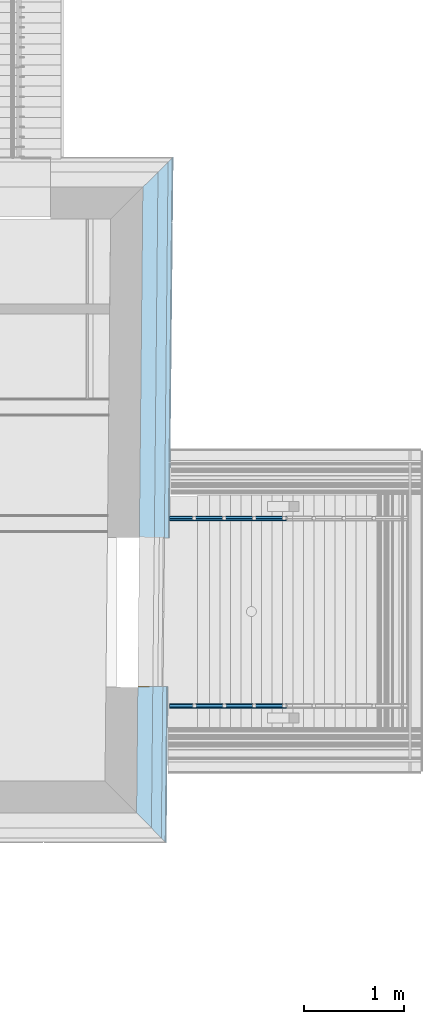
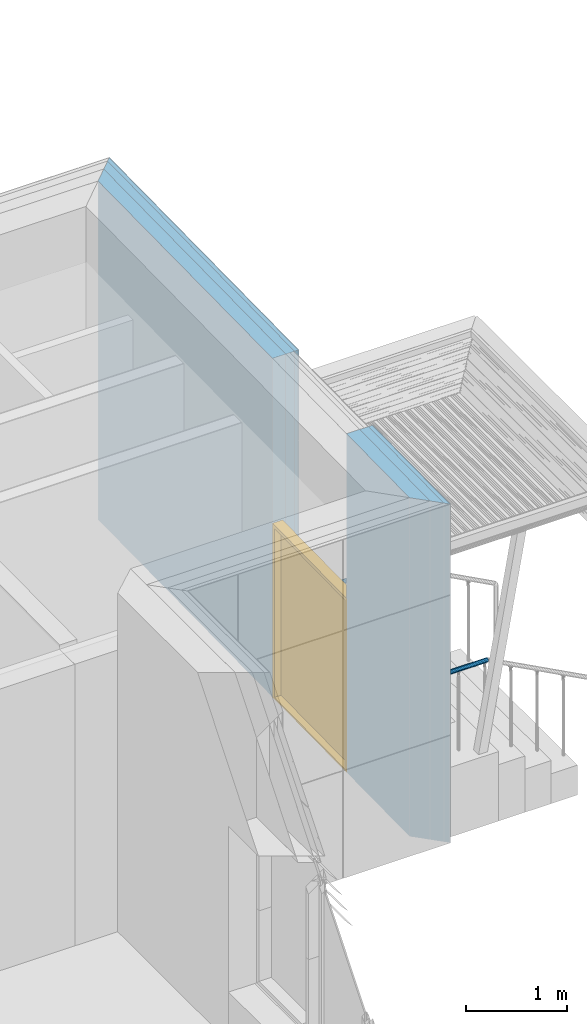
# One storey, part 141 of 418: 2 building element parts, 1 door, 8 openings, 5 elements without a shape of their own, plus 4 elements that do not belong to this part.
"""IFC2X3 building model written with IfcOpenShell, lengths in millimetres."""

from ifc_helpers import new_model, entity, si_unit, converted_unit, derived_unit, money_unit, direction, frame, origin_with_axes, origin_2d_with_axis, place, context, subcontext, project, spatial, polyline, rectangle, outline, extrude, faceted_brep, material, type_object, element, fill, aggregate, save


model = new_model("IFC2X3")

# Units and contexts
model_context = context("Model", 3, precision=0.01, world=origin_with_axes(), true_north=direction((0.0, 1.0)))
body_context = subcontext(model_context, "Body", "Model", "MODEL_VIEW")
ifc_project = project(units=[si_unit("LENGTHUNIT", "METRE", prefix="MILLI"), si_unit("AREAUNIT", "SQUARE_METRE"), si_unit("VOLUMEUNIT", "CUBIC_METRE"), converted_unit("PLANEANGLEUNIT", "DEGREE", entity("IfcPlaneAngleMeasure", 0.0174532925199), si_unit("PLANEANGLEUNIT", "RADIAN"), dimensions=[0, 0, 0, 0, 0, 0, 0]), si_unit("SOLIDANGLEUNIT", "STERADIAN"), money_unit("EUR"), converted_unit("TIMEUNIT", "Year", entity("IfcTimeMeasure", 31556926.0), si_unit("TIMEUNIT", "SECOND"), dimensions=[0, 0, 1, 0, 0, 0, 0]), si_unit("MASSUNIT", "GRAM", prefix="KILO"), si_unit("THERMODYNAMICTEMPERATUREUNIT", "DEGREE_CELSIUS"), si_unit("LUMINOUSINTENSITYUNIT", "LUMEN"), si_unit("ENERGYUNIT", "JOULE", prefix="MEGA"), derived_unit("THERMALCONDUCTANCEUNIT", [(si_unit("POWERUNIT", "WATT"), 1), (si_unit("LENGTHUNIT", "METRE"), -1), (si_unit("THERMODYNAMICTEMPERATUREUNIT", "KELVIN"), -1)]), derived_unit("SPECIFICHEATCAPACITYUNIT", [(si_unit("ENERGYUNIT", "JOULE"), 1), (si_unit("MASSUNIT", "GRAM", prefix="KILO"), -1), (si_unit("THERMODYNAMICTEMPERATUREUNIT", "KELVIN"), -1)]), derived_unit("MASSDENSITYUNIT", [(si_unit("MASSUNIT", "GRAM", prefix="KILO"), 1), (si_unit("VOLUMEUNIT", "CUBIC_METRE"), -1)])], contexts=[model_context])

# Site, building, storey
site_placement = place(None, origin_with_axes())
site = spatial("IfcSite", under=ifc_project, at=site_placement, Name="Paldiski mnt 245/1, Tallinn, Harjumaa", CompositionType="COMPLEX")
building_placement = place(site_placement, origin_with_axes())
building = spatial("IfcBuilding", under=site, at=building_placement, Name="RKAS Hoone üldnimetus (kasutust iseloomustav) -> IFC Project Manager -> SOLIBRI", CompositionType="ELEMENT")
storey_placement = place(building_placement, origin_with_axes())
storey = spatial("IfcBuildingStorey", under=building, at=storey_placement, Name="Esimene korrus", CompositionType="ELEMENT", Elevation=0.0)

# Door
door_style = type_object("IfcDoorStyle", Name="Double Door Asymmetric 23", ConstructionType="NOTDEFINED", OperationType="DOUBLE_DOOR_SINGLE_SWING", ParameterTakesPrecedence=False, Sizeable=False)
wall_placement = place(storey_placement, frame((-47068.6681644, 29819.8287244, 0.0), z_axis=(0.0, 0.0, 1.0), x_axis=(0.0100813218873, 0.999949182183, 0.0)))
opening_7_placement = place(wall_placement, frame((2010.54035859, 0.0, 0.0), z_axis=(0.0, 0.0, 1.0), x_axis=(1.0, 0.0, 0.0)))
door_placement = place(opening_7_placement, frame((750.0, 0.0, 0.0), z_axis=(0.0, 0.0, 1.0), x_axis=(-1.0, 0.0, 0.0)))
door = element("IfcDoor", 1, at=door_placement, inside=storey, type_object=door_style, Name="VU-04p", ObjectType="DOOR", OverallHeight=2100.0, OverallWidth=1500.0, context=body_context, shape_type="Brep", body=[
    faceted_brep([(40.0, 0.0, 0.0), (40.0, 0.0, 20.0), (40.0, 75.0, 20.0), (40.0, 75.0, 0.0), (1460.0, 0.0, 0.0), (1460.0, 0.0, 20.0), (1460.0, 75.0, 20.0), (1472.0, 75.0, 20.0), (28.0, 75.0, 20.0), (28.0, 75.0, 0.0), (1472.0, 75.0, 0.0), (1460.0, 75.0, 0.0)], [[[0, 1, 2, 3]], [[4, 5, 1, 0]], [[1, 5, 6, 7, 8, 2]], [[3, 2, 8, 9]], [[0, 3, 9, 10, 11, 4]], [[11, 6, 5, 4]], [[10, 7, 6, 11]], [[9, 8, 7, 10]]]),
    faceted_brep([(1460.0, 75.0, 0.0), (1460.0, 0.0, 0.0), (1460.0, 0.0, 2060.0), (1460.0, 75.0, 2060.0), (1472.0, 75.0, 0.0), (1472.0, 115.0, 0.0), (1500.0, 115.0, 0.0), (1500.0, 0.0, 0.0), (1500.0, 0.0, 2060.0), (1472.0, 75.0, 2060.0), (1500.0, 115.0, 2060.0), (1472.0, 115.0, 2060.0)], [[[0, 1, 2, 3]], [[4, 5, 6, 7, 1, 0]], [[1, 7, 8, 2]], [[9, 3, 2, 8, 10, 11]], [[9, 4, 0, 3]], [[11, 5, 4, 9]], [[11, 10, 6, 5]], [[6, 10, 8, 7]]]),
    faceted_brep([(28.0, 75.0, 2060.0), (28.0, 115.0, 2060.0), (0.0, 115.0, 2060.0), (0.0, 0.0, 2060.0), (40.0, 0.0, 2060.0), (40.0, 75.0, 2060.0), (28.0, 75.0, 0.0), (28.0, 115.0, 0.0), (0.0, 115.0, 0.0), (0.0, 0.0, 0.0), (40.0, 0.0, 0.0), (40.0, 75.0, 0.0)], [[[0, 1, 2, 3, 4, 5]], [[0, 6, 7, 1]], [[7, 8, 2, 1]], [[2, 8, 9, 3]], [[3, 9, 10, 4]], [[5, 4, 10, 11]], [[5, 11, 6, 0]], [[6, 11, 10, 9, 8, 7]]]),
    faceted_brep([(1472.0, 115.0, 2072.0), (28.0, 115.0, 2072.0), (28.0, 115.0, 2060.0), (0.0, 115.0, 2060.0), (0.0, 115.0, 2100.0), (1500.0, 115.0, 2100.0), (1500.0, 115.0, 2060.0), (1472.0, 115.0, 2060.0), (1472.0, 75.0, 2072.0), (28.0, 75.0, 2072.0), (28.0, 75.0, 2060.0), (40.0, 75.0, 2060.0), (40.0, 0.0, 2060.0), (0.0, 0.0, 2060.0), (0.0, 0.0, 2100.0), (1500.0, 0.0, 2100.0), (1500.0, 0.0, 2060.0), (1472.0, 75.0, 2060.0), (1460.0, 0.0, 2060.0), (1460.0, 75.0, 2060.0)], [[[0, 1, 2, 3, 4, 5, 6, 7]], [[0, 8, 9, 1]], [[1, 9, 10, 2]], [[10, 11, 12, 13, 3, 2]], [[4, 3, 13, 14]], [[5, 4, 14, 15]], [[6, 5, 15, 16]], [[17, 7, 6, 16, 18, 19]], [[7, 17, 8, 0]], [[10, 9, 8, 17, 19, 11]], [[19, 18, 12, 11]], [[12, 18, 16, 15, 14, 13]]]),
    faceted_brep([(28.0, 115.0, 0.0), (1000.0, 115.0, 0.0), (1000.0, 75.0, 0.0), (28.0, 75.0, 0.0), (28.0, 115.0, 2072.0), (1000.0, 115.0, 2072.0), (1000.0, 75.0, 2072.0), (28.0, 75.0, 2072.0)], [[[0, 1, 2, 3]], [[0, 4, 5, 1]], [[1, 5, 6, 2]], [[3, 2, 6, 7]], [[4, 0, 3, 7]], [[5, 4, 7, 6]]]),
    faceted_brep([(1472.0, 115.0, 0.0), (1472.0, 75.0, 0.0), (1000.0, 75.0, 0.0), (1000.0, 115.0, 0.0), (1472.0, 115.0, 2072.0), (1472.0, 75.0, 2072.0), (1000.0, 75.0, 2072.0), (1000.0, 115.0, 2072.0)], [[[0, 1, 2, 3]], [[4, 5, 1, 0]], [[1, 5, 6, 2]], [[3, 2, 6, 7]], [[0, 3, 7, 4]], [[7, 6, 5, 4]]]),
])

# Wall, openings
wall_type = type_object("IfcWallType", Name="VS-03C_uued_kihid 300", PredefinedType="NOTDEFINED")
wall = element("IfcWall", 2, at=wall_placement, inside=storey, type_object=wall_type, Name="VS-03")
opening_1_placement = place(wall_placement, frame((5916.12451231, 0.0, 0.0), z_axis=(0.0, 0.0, 1.0), x_axis=(1.0, 0.0, 0.0)))
element("IfcOpeningElement", 3, at=opening_1_placement, cuts=wall, Name="Cembrit fassaadiplaadi vuuk", context=body_context, shape_type="SweptSolid", body=[
    extrude(outline(polyline([(-3.99999999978, 0.0), (4.00000000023, 0.0), (4.00000000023, 4090.0), (-3.99999999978, 4090.0), (-3.99999999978, 0.0)])), frame((2.13162820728e-10, -292.0, 0.0), z_axis=(0.0, 1.0, 0.0), x_axis=(-1.0, 0.0, 0.0)), (0.0, 0.0, -1.0), 308.0),
])
opening_2_placement = place(wall_placement, frame((4716.06352783, 0.0, 0.0), z_axis=(0.0, 0.0, 1.0), x_axis=(1.0, 0.0, 0.0)))
element("IfcOpeningElement", 4, at=opening_2_placement, cuts=wall, Name="Cembrit fassaadiplaadi vuuk", context=body_context, shape_type="SweptSolid", body=[
    extrude(outline(polyline([(-3.99999999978, 0.0), (4.00000000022, 0.0), (4.00000000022, 4090.0), (-3.99999999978, 4090.0), (-3.99999999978, 0.0)])), frame((2.13162820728e-10, -292.0, 0.0), z_axis=(0.0, 1.0, 0.0), x_axis=(-1.0, 0.0, 0.0)), (0.0, 0.0, -1.0), 308.0),
])
opening_3_placement = place(wall_placement, frame((3516.00254335, 0.0, 0.0), z_axis=(0.0, 0.0, 1.0), x_axis=(1.0, 0.0, 0.0)))
element("IfcOpeningElement", 5, at=opening_3_placement, cuts=wall, Name="Cembrit fassaadiplaadi vuuk", context=body_context, shape_type="SweptSolid", body=[
    extrude(outline(polyline([(-3.99999999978, 0.0), (4.00000000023, 0.0), (4.00000000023, 4090.0), (-3.99999999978, 4090.0), (-3.99999999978, 0.0)])), frame((2.13162820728e-10, -292.0, 0.0), z_axis=(0.0, 1.0, 0.0), x_axis=(-1.0, 0.0, 0.0)), (0.0, 0.0, -1.0), 308.0),
])
opening_4_placement = place(wall_placement, frame((513.517764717, 0.0, 0.0), z_axis=(0.0, 0.0, 1.0), x_axis=(1.0, 0.0, 0.0)))
element("IfcOpeningElement", 6, at=opening_4_placement, cuts=wall, Name="Cembrit fassaadiplaadi vuuk", context=body_context, shape_type="SweptSolid", body=[
    extrude(outline(polyline([(-3.99999999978, 0.0), (4.00000000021, 0.0), (4.00000000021, 4090.0), (-3.99999999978, 4090.0), (-3.99999999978, 0.0)])), frame((2.13162820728e-10, -292.0, 0.0), z_axis=(0.0, 1.0, 0.0), x_axis=(-1.0, 0.0, 0.0)), (0.0, 0.0, -1.0), 308.0),
])
opening_5_placement = place(wall_placement, frame((3139.79696569, 0.0, 1298.0), z_axis=(0.0, 0.0, 1.0), x_axis=(1.0, 0.0, 0.0)))
element("IfcOpeningElement", 7, at=opening_5_placement, cuts=wall, Name="Cembrit fassaadiplaadi vuuk", context=body_context, shape_type="SweptSolid", body=[
    extrude(outline(polyline([(-3433.5614746, 0.0), (3433.5614746, 0.0), (3433.5614746, 8.0), (-3433.5614746, 8.0), (-3433.5614746, 0.0)])), frame((0.0, -292.0, 0.0), z_axis=(0.0, 1.0, 0.0), x_axis=(-1.0, 0.0, 0.0)), (0.0, 0.0, -1.0), 308.0),
])
opening_6_placement = place(wall_placement, frame((3139.79696569, 0.0, 2990.0), z_axis=(0.0, 0.0, 1.0), x_axis=(1.0, 0.0, 0.0)))
element("IfcOpeningElement", 8, at=opening_6_placement, cuts=wall, Name="Cembrit fassaadiplaadi vuuk", context=body_context, shape_type="SweptSolid", body=[
    extrude(outline(polyline([(-3433.5614746, 0.0), (3433.5614746, 0.0), (3433.5614746, 8.0), (-3433.5614746, 8.0), (-3433.5614746, 0.0)])), frame((0.0, -292.0, 0.0), z_axis=(0.0, 1.0, 0.0), x_axis=(-1.0, 0.0, 0.0)), (0.0, 0.0, -1.0), 308.0),
])
opening_7 = element("IfcOpeningElement", 9, at=opening_7_placement, cuts=wall, Name="VU-04p", context=body_context, shape_type="SweptSolid", body=[
    extrude(rectangle(XDim=1500.0, YDim=2100.0, at=origin_2d_with_axis()), frame((0.0, -300.0, 1050.0), z_axis=(0.0, -1.0, 0.0), x_axis=(1.0, 0.0, 0.0)), (0.0, 0.0, -1.0), 900.0),
])

fill(opening_7, door)

# Opening
opening_8_placement = place(wall_placement, frame((-29343.7989512, -47366.8995295, 0.0), z_axis=(0.0, 0.0, 1.0), x_axis=(0.0100813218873, -0.999949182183, 0.0)))
element("IfcOpeningElement", 10, at=opening_8_placement, cuts=wall, Name="AVA", ObjectType="OPENING", context=body_context, shape_type="SweptSolid", body=[
    extrude(rectangle(XDim=1490.0, YDim=4090.0, at=origin_2d_with_axis()), frame((-47048.3797539, 31832.2016801, 2045.0), z_axis=(0.999949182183, -0.0100813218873, 0.0), x_axis=(0.0100813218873, 0.999949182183, 0.0)), (0.0, 0.0, 1.0), 713.654151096),
])

# Building element part
ifc_material_1 = material(Name="Cembrit_C040")
building_element_part_1_placement = place(wall_placement, origin_with_axes())
building_element_part_1 = element("IfcBuildingElementPart", 11, at=building_element_part_1_placement, material=ifc_material_1, Name="Cembrit_C040", context=body_context, shape_type="SweptSolid", body=[
    extrude(outline(polyline([(-296.990695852, -300.0), (6573.35844029, -300.0), (6565.27737905, -292.0), (-289.070943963, -292.0), (-296.990695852, -300.0)])), origin_with_axes(), (0.0, 0.0, 1.0), 4090.0),
])

ifc_material_2 = material(Name="VKR-06_Õhkvahe")
building_element_part_2_placement = place(wall_placement, origin_with_axes())
building_element_part_2 = element("IfcBuildingElementPart", 12, at=building_element_part_2_placement, material=ifc_material_2, Name="VKR-06_Õhkvahe", context=body_context, shape_type="SweptSolid", body=[
    extrude(outline(polyline([(-289.070943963, -292.0), (6565.27737905, -292.0), (6522.85180756, -250.0), (-247.492246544, -250.0), (-289.070943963, -292.0)])), origin_with_axes(), (0.0, 0.0, 1.0), 4090.0),
])

ifc_material_3 = material(Name="Kingspan Kooltherm")
building_element_part_3_placement = place(wall_placement, origin_with_axes())
building_element_part_3 = element("IfcBuildingElementPart", 13, at=building_element_part_3_placement, material=ifc_material_3, Name="Kingspan Kooltherm", context=body_context, shape_type="SweptSolid", body=[
    extrude(outline(polyline([(-247.492246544, -250.0), (6522.85180756, -250.0), (6421.8385421, -150.0), (-148.495347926, -150.0), (-247.492246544, -250.0)])), origin_with_axes(), (0.0, 0.0, 1.0), 4090.0),
])

building_element_part_4_placement = place(wall_placement, origin_with_axes())
building_element_part_4 = element("IfcBuildingElementPart", 14, at=building_element_part_4_placement, material=ifc_material_3, Name="Kingspan Kooltherm", context=body_context, shape_type="SweptSolid", body=[
    extrude(outline(polyline([(-148.495347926, -150.0), (6421.8385421, -150.0), (6270.3186439, 0.0), (0.0, 0.0), (-148.495347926, -150.0)])), origin_with_axes(), (0.0, 0.0, 1.0), 4090.0),
])

aggregate(wall, [building_element_part_1, building_element_part_2, building_element_part_3, building_element_part_4])

# Proxies, building element part
building_element_proxy_type_1 = type_object("IfcBuildingElementProxyType", Name="Railing Type", PredefinedType="NOTDEFINED")
proxy_1_placement = place(storey_placement, frame((-46768.8433803, 32771.6822003, -641.218687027), z_axis=(0.0, 0.0, 1.0), x_axis=(1.0, 0.0, 0.0)))
proxy_1 = element("IfcBuildingElementProxy", 15, at=proxy_1_placement, inside=storey, type_object=building_element_proxy_type_1, Name="Trepipiire")
building_element_proxy_type_2 = type_object("IfcBuildingElementProxyType", Name="IfcBuildingElementProxy", PredefinedType="NOTDEFINED")
proxy_2_placement = place(proxy_1_placement, frame((620.842922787, 0.0, 1565.31698759), z_axis=(0.0, 0.0, 1.0), x_axis=(1.0, 0.0, 0.0)))
proxy_2 = element("IfcBuildingElementProxy", 16, at=proxy_2_placement, type_object=building_element_proxy_type_2, Name="ÜL PIIRE - 001")
aggregate(proxy_1, [proxy_2])
ifc_material_4 = material(Name="RAL7016")
building_element_part_5_placement = place(proxy_2_placement, origin_with_axes())
building_element_part_5 = element("IfcBuildingElementPart", 17, at=building_element_part_5_placement, material=ifc_material_4, Name="RAL7016", context=body_context, shape_type="Brep", body=[
    faceted_brep([(-590.589908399, 25.0, 30.9016994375), (-590.589908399, 24.6201938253, 35.2429038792), (585.423459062, 24.6201938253, 35.2429038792), (584.337790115, 25.0, 30.9016994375), (-590.589908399, 24.6201938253, 26.5604949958), (-590.589908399, 23.4923155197, 22.3511958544), (-590.589908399, 21.6506350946, 18.4016994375), (-590.589908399, 19.151111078, 14.8320091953), (-590.589908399, 16.0696902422, 11.7505883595), (-590.589908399, 12.5, 9.25106434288), (-590.589908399, 8.55050358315, 7.40938391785), (-590.589908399, 4.34120444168, 6.28150561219), (-590.589908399, 0.0, 5.90169943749), (-590.589908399, -4.34120444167, 6.28150561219), (-590.589908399, -8.55050358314, 7.40938391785), (-590.589908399, -12.5, 9.25106434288), (-590.589908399, -16.0696902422, 11.7505883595), (-590.589908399, -19.151111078, 14.8320091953), (-590.589908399, -21.6506350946, 18.4016994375), (-590.589908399, -23.4923155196, 22.3511958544), (-590.589908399, -24.6201938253, 26.5604949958), (-590.589908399, -25.0, 30.9016994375), (-590.589908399, -24.6201938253, 35.2429038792), (-590.589908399, -23.4923155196, 39.4522030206), (-590.589908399, -21.6506350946, 43.4016994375), (-590.589908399, -19.151111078, 46.9713896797), (-590.589908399, -16.0696902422, 50.0528105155), (-590.589908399, -12.5, 52.5523345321), (-590.589908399, -8.55050358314, 54.3940149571), (-590.589908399, -4.34120444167, 55.5218932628), (-590.589908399, 0.0, 55.9016994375), (-590.589908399, 4.34120444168, 55.5218932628), (-590.589908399, 8.55050358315, 54.3940149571), (-590.589908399, 12.5, 52.5523345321), (-590.589908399, 16.0696902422, 50.0528105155), (-590.589908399, 19.151111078, 46.9713896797), (-590.589908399, 21.6506350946, 43.4016994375), (-590.589908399, 23.4923155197, 39.4522030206), (-590.589908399, 20.5, 30.9016994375), (-590.589908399, 20.1885589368, 34.4614870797), (-590.589908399, 19.2636987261, 37.9131123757), (-590.589908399, 17.7535207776, 41.1516994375), (-590.589908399, 15.7039110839, 44.0788454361), (-590.589908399, 13.1771459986, 46.6056105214), (-590.589908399, 10.25, 48.6552202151), (-590.589908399, 7.01141293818, 50.1653981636), (-590.589908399, 3.55978764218, 51.0902583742), (-590.589908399, 0.0, 51.4016994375), (-590.589908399, -3.55978764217, 51.0902583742), (-590.589908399, -7.01141293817, 50.1653981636), (-590.589908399, -10.25, 48.6552202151), (-590.589908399, -13.1771459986, 46.6056105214), (-590.589908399, -15.7039110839, 44.0788454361), (-590.589908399, -17.7535207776, 41.1516994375), (-590.589908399, -19.2636987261, 37.9131123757), (-590.589908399, -20.1885589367, 34.4614870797), (-590.589908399, -20.5, 30.9016994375), (-590.589908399, -20.1885589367, 27.3419117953), (-590.589908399, -19.2636987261, 23.8902864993), (-590.589908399, -17.7535207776, 20.6516994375), (-590.589908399, -15.7039110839, 17.7245534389), (-590.589908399, -13.1771459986, 15.1977883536), (-590.589908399, -10.25, 13.1481786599), (-590.589908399, -7.01141293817, 11.6380007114), (-590.589908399, -3.55978764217, 10.7131405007), (-590.589908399, 0.0, 10.4016994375), (-590.589908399, 3.55978764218, 10.7131405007), (-590.589908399, 7.01141293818, 11.6380007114), (-590.589908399, 10.25, 13.1481786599), (-590.589908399, 13.1771459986, 15.1977883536), (-590.589908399, 15.7039110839, 17.7245534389), (-590.589908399, 17.7535207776, 20.6516994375), (-590.589908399, 19.2636987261, 23.8902864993), (-590.589908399, 20.1885589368, 27.3419117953), (586.476140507, 23.4923155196, 39.4522030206), (587.463849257, 21.6506350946, 43.4016994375), (588.356574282, 19.151111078, 46.9713896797), (589.127190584, 16.0696902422, 50.0528105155), (589.752283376, 12.5, 52.5523345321), (590.212859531, 8.55050358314, 54.3940149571), (590.494924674, 4.34120444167, 55.5218932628), (590.589908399, 0.0, 55.9016994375), (590.494924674, -4.34120444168, 55.5218932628), (590.212859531, -8.55050358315, 54.3940149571), (589.752283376, -12.5, 52.5523345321), (589.127190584, -16.0696902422, 50.0528105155), (588.356574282, -19.151111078, 46.9713896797), (587.463849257, -21.6506350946, 43.4016994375), (586.476140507, -23.4923155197, 39.4522030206), (585.423459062, -24.6201938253, 35.2429038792), (584.337790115, -25.0, 30.9016994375), (583.252121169, -24.6201938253, 26.5604949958), (582.199439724, -23.4923155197, 22.3511958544), (581.211730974, -21.6506350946, 18.4016994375), (580.319005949, -19.151111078, 14.8320091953), (579.548389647, -16.0696902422, 11.7505883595), (578.923296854, -12.5, 9.25106434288), (578.4627207, -8.55050358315, 7.40938391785), (578.180655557, -4.34120444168, 6.28150561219), (578.085671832, 0.0, 5.90169943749), (578.180655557, 4.34120444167, 6.28150561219), (578.4627207, 8.55050358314, 7.40938391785), (578.923296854, 12.5, 9.25106434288), (579.548389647, 16.0696902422, 11.7505883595), (580.319005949, 19.151111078, 14.8320091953), (581.211730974, 21.6506350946, 18.4016994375), (582.199439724, 23.4923155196, 22.3511958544), (583.252121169, 24.6201938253, 26.5604949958), (584.337790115, 20.5, 30.9016994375), (583.447541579, 20.1885589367, 27.3419117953), (582.584342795, 19.2636987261, 23.8902864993), (581.774421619, 17.7535207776, 20.6516994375), (581.042387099, 15.7039110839, 17.7245534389), (580.410481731, 13.1771459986, 15.1977883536), (579.897905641, 10.25, 13.1481786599), (579.520233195, 7.01141293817, 11.6380007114), (579.288939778, 3.55978764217, 10.7131405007), (579.211053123, 0.0, 10.4016994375), (579.288939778, -3.55978764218, 10.7131405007), (579.520233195, -7.01141293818, 11.6380007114), (579.897905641, -10.25, 13.1481786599), (580.410481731, -13.1771459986, 15.1977883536), (581.042387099, -15.7039110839, 17.7245534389), (581.774421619, -17.7535207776, 20.6516994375), (582.584342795, -19.2636987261, 23.8902864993), (583.447541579, -20.1885589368, 27.3419117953), (584.337790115, -20.5, 30.9016994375), (585.228038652, -20.1885589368, 34.4614870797), (586.091237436, -19.2636987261, 37.9131123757), (586.901158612, -17.7535207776, 41.1516994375), (587.633193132, -15.7039110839, 44.0788454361), (588.2650985, -13.1771459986, 46.6056105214), (588.77767459, -10.25, 48.6552202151), (589.155347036, -7.01141293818, 50.1653981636), (589.386640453, -3.55978764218, 51.0902583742), (589.464527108, 0.0, 51.4016994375), (589.386640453, 3.55978764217, 51.0902583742), (589.155347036, 7.01141293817, 50.1653981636), (588.77767459, 10.25, 48.6552202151), (588.2650985, 13.1771459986, 46.6056105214), (587.633193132, 15.7039110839, 44.0788454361), (586.901158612, 17.7535207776, 41.1516994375), (586.091237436, 19.2636987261, 37.9131123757), (585.228038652, 20.1885589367, 34.4614870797)], [[[0, 1, 2, 3]], [[0, 4, 5, 6, 7, 8, 9, 10, 11, 12, 13, 14, 15, 16, 17, 18, 19, 20, 21, 22, 23, 24, 25, 26, 27, 28, 29, 30, 31, 32, 33, 34, 35, 36, 37, 1], [38, 39, 40, 41, 42, 43, 44, 45, 46, 47, 48, 49, 50, 51, 52, 53, 54, 55, 56, 57, 58, 59, 60, 61, 62, 63, 64, 65, 66, 67, 68, 69, 70, 71, 72, 73]], [[1, 37, 74, 2]], [[3, 2, 74, 75, 76, 77, 78, 79, 80, 81, 82, 83, 84, 85, 86, 87, 88, 89, 90, 91, 92, 93, 94, 95, 96, 97, 98, 99, 100, 101, 102, 103, 104, 105, 106, 107], [108, 109, 110, 111, 112, 113, 114, 115, 116, 117, 118, 119, 120, 121, 122, 123, 124, 125, 126, 127, 128, 129, 130, 131, 132, 133, 134, 135, 136, 137, 138, 139, 140, 141, 142, 143]], [[4, 0, 3, 107]], [[5, 4, 107, 106]], [[6, 5, 106, 105]], [[7, 6, 105, 104]], [[8, 7, 104, 103]], [[9, 8, 103, 102]], [[10, 9, 102, 101]], [[11, 10, 101, 100]], [[12, 11, 100, 99]], [[13, 12, 99, 98]], [[14, 13, 98, 97]], [[15, 14, 97, 96]], [[16, 15, 96, 95]], [[17, 16, 95, 94]], [[18, 17, 94, 93]], [[19, 18, 93, 92]], [[20, 19, 92, 91]], [[21, 20, 91, 90]], [[22, 21, 90, 89]], [[23, 22, 89, 88]], [[24, 23, 88, 87]], [[25, 24, 87, 86]], [[26, 25, 86, 85]], [[27, 26, 85, 84]], [[28, 27, 84, 83]], [[29, 28, 83, 82]], [[30, 29, 82, 81]], [[31, 30, 81, 80]], [[32, 31, 80, 79]], [[33, 32, 79, 78]], [[34, 33, 78, 77]], [[35, 34, 77, 76]], [[36, 35, 76, 75]], [[37, 36, 75, 74]], [[39, 38, 108, 143]], [[40, 39, 143, 142]], [[41, 40, 142, 141]], [[42, 41, 141, 140]], [[43, 42, 140, 139]], [[44, 43, 139, 138]], [[45, 44, 138, 137]], [[46, 45, 137, 136]], [[47, 46, 136, 135]], [[48, 47, 135, 134]], [[49, 48, 134, 133]], [[50, 49, 133, 132]], [[51, 50, 132, 131]], [[52, 51, 131, 130]], [[53, 52, 130, 129]], [[54, 53, 129, 128]], [[55, 54, 128, 127]], [[56, 55, 127, 126]], [[57, 56, 126, 125]], [[58, 57, 125, 124]], [[59, 58, 124, 123]], [[60, 59, 123, 122]], [[61, 60, 122, 121]], [[62, 61, 121, 120]], [[63, 62, 120, 119]], [[64, 63, 119, 118]], [[65, 64, 118, 117]], [[66, 65, 117, 116]], [[67, 66, 116, 115]], [[68, 67, 115, 114]], [[69, 68, 114, 113]], [[70, 69, 113, 112]], [[71, 70, 112, 111]], [[72, 71, 111, 110]], [[73, 72, 110, 109]], [[38, 73, 109, 108]]]),
])
aggregate(proxy_2, [building_element_part_5])

proxy_3_placement = place(storey_placement, frame((-46768.8433803, 30891.790867, -641.218687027), z_axis=(0.0, 0.0, 1.0), x_axis=(1.0, 0.0, 0.0)))
proxy_3 = element("IfcBuildingElementProxy", 18, at=proxy_3_placement, inside=storey, type_object=building_element_proxy_type_1, Name="Trepipiire")
proxy_4_placement = place(proxy_3_placement, frame((621.440722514, 0.0, 1565.31698759), z_axis=(0.0, 0.0, 1.0), x_axis=(1.0, 0.0, 0.0)))
proxy_4 = element("IfcBuildingElementProxy", 19, at=proxy_4_placement, type_object=building_element_proxy_type_2, Name="ÜL PIIRE - 001")
aggregate(proxy_3, [proxy_4])
building_element_part_6_placement = place(proxy_4_placement, origin_with_axes())
building_element_part_6 = element("IfcBuildingElementPart", 20, at=building_element_part_6_placement, material=ifc_material_4, Name="RAL7016", context=body_context, shape_type="Brep", body=[
    faceted_brep([(-589.992108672, 25.0, 30.9016994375), (-589.992108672, 24.6201938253, 35.2429038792), (584.825659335, 24.6201938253, 35.2429038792), (583.739990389, 25.0, 30.9016994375), (-589.992108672, 24.6201938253, 26.5604949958), (-589.992108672, 23.4923155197, 22.3511958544), (-589.992108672, 21.6506350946, 18.4016994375), (-589.992108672, 19.151111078, 14.8320091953), (-589.992108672, 16.0696902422, 11.7505883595), (-589.992108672, 12.5, 9.25106434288), (-589.992108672, 8.55050358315, 7.40938391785), (-589.992108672, 4.34120444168, 6.28150561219), (-589.992108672, 0.0, 5.90169943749), (-589.992108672, -4.34120444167, 6.28150561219), (-589.992108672, -8.55050358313, 7.40938391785), (-589.992108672, -12.5, 9.25106434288), (-589.992108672, -16.0696902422, 11.7505883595), (-589.992108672, -19.151111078, 14.8320091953), (-589.992108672, -21.6506350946, 18.4016994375), (-589.992108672, -23.4923155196, 22.3511958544), (-589.992108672, -24.6201938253, 26.5604949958), (-589.992108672, -25.0, 30.9016994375), (-589.992108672, -24.6201938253, 35.2429038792), (-589.992108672, -23.4923155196, 39.4522030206), (-589.992108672, -21.6506350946, 43.4016994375), (-589.992108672, -19.151111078, 46.9713896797), (-589.992108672, -16.0696902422, 50.0528105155), (-589.992108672, -12.5, 52.5523345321), (-589.992108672, -8.55050358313, 54.3940149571), (-589.992108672, -4.34120444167, 55.5218932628), (-589.992108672, 0.0, 55.9016994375), (-589.992108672, 4.34120444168, 55.5218932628), (-589.992108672, 8.55050358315, 54.3940149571), (-589.992108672, 12.5, 52.5523345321), (-589.992108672, 16.0696902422, 50.0528105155), (-589.992108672, 19.151111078, 46.9713896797), (-589.992108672, 21.6506350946, 43.4016994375), (-589.992108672, 23.4923155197, 39.4522030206), (-589.992108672, 20.5, 30.9016994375), (-589.992108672, 20.1885589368, 34.4614870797), (-589.992108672, 19.2636987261, 37.9131123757), (-589.992108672, 17.7535207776, 41.1516994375), (-589.992108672, 15.7039110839, 44.0788454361), (-589.992108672, 13.1771459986, 46.6056105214), (-589.992108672, 10.25, 48.6552202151), (-589.992108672, 7.01141293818, 50.1653981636), (-589.992108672, 3.55978764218, 51.0902583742), (-589.992108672, 0.0, 51.4016994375), (-589.992108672, -3.55978764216, 51.0902583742), (-589.992108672, -7.01141293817, 50.1653981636), (-589.992108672, -10.25, 48.6552202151), (-589.992108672, -13.1771459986, 46.6056105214), (-589.992108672, -15.7039110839, 44.0788454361), (-589.992108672, -17.7535207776, 41.1516994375), (-589.992108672, -19.2636987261, 37.9131123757), (-589.992108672, -20.1885589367, 34.4614870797), (-589.992108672, -20.5, 30.9016994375), (-589.992108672, -20.1885589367, 27.3419117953), (-589.992108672, -19.2636987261, 23.8902864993), (-589.992108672, -17.7535207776, 20.6516994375), (-589.992108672, -15.7039110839, 17.7245534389), (-589.992108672, -13.1771459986, 15.1977883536), (-589.992108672, -10.25, 13.1481786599), (-589.992108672, -7.01141293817, 11.6380007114), (-589.992108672, -3.55978764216, 10.7131405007), (-589.992108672, 0.0, 10.4016994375), (-589.992108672, 3.55978764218, 10.7131405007), (-589.992108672, 7.01141293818, 11.6380007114), (-589.992108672, 10.25, 13.1481786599), (-589.992108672, 13.1771459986, 15.1977883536), (-589.992108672, 15.7039110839, 17.7245534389), (-589.992108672, 17.7535207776, 20.6516994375), (-589.992108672, 19.2636987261, 23.8902864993), (-589.992108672, 20.1885589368, 27.3419117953), (585.87834078, 23.4923155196, 39.4522030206), (586.866049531, 21.6506350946, 43.4016994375), (587.758774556, 19.151111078, 46.9713896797), (588.529390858, 16.0696902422, 50.0528105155), (589.15448365, 12.5, 52.5523345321), (589.615059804, 8.55050358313, 54.3940149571), (589.897124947, 4.34120444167, 55.5218932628), (589.992108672, 0.0, 55.9016994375), (589.897124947, -4.34120444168, 55.5218932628), (589.615059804, -8.55050358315, 54.3940149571), (589.15448365, -12.5, 52.5523345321), (588.529390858, -16.0696902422, 50.0528105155), (587.758774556, -19.151111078, 46.9713896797), (586.866049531, -21.6506350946, 43.4016994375), (585.87834078, -23.4923155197, 39.4522030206), (584.825659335, -24.6201938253, 35.2429038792), (583.739990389, -25.0, 30.9016994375), (582.654321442, -24.6201938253, 26.5604949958), (581.601639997, -23.4923155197, 22.3511958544), (580.613931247, -21.6506350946, 18.4016994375), (579.721206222, -19.151111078, 14.8320091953), (578.95058992, -16.0696902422, 11.7505883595), (578.325497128, -12.5, 9.25106434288), (577.864920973, -8.55050358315, 7.40938391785), (577.58285583, -4.34120444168, 6.28150561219), (577.487872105, 0.0, 5.90169943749), (577.58285583, 4.34120444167, 6.28150561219), (577.864920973, 8.55050358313, 7.40938391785), (578.325497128, 12.5, 9.25106434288), (578.95058992, 16.0696902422, 11.7505883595), (579.721206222, 19.151111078, 14.8320091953), (580.613931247, 21.6506350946, 18.4016994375), (581.601639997, 23.4923155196, 22.3511958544), (582.654321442, 24.6201938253, 26.5604949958), (583.739990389, 20.5, 30.9016994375), (582.849741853, 20.1885589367, 27.3419117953), (581.986543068, 19.2636987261, 23.8902864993), (581.176621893, 17.7535207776, 20.6516994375), (580.444587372, 15.7039110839, 17.7245534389), (579.812682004, 13.1771459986, 15.1977883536), (579.300105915, 10.25, 13.1481786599), (578.922433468, 7.01141293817, 11.6380007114), (578.691140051, 3.55978764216, 10.7131405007), (578.613253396, 0.0, 10.4016994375), (578.691140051, -3.55978764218, 10.7131405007), (578.922433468, -7.01141293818, 11.6380007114), (579.300105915, -10.25, 13.1481786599), (579.812682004, -13.1771459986, 15.1977883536), (580.444587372, -15.7039110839, 17.7245534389), (581.176621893, -17.7535207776, 20.6516994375), (581.986543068, -19.2636987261, 23.8902864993), (582.849741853, -20.1885589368, 27.3419117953), (583.739990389, -20.5, 30.9016994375), (584.630238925, -20.1885589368, 34.4614870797), (585.49343771, -19.2636987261, 37.9131123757), (586.303358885, -17.7535207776, 41.1516994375), (587.035393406, -15.7039110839, 44.0788454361), (587.667298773, -13.1771459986, 46.6056105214), (588.179874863, -10.25, 48.6552202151), (588.557547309, -7.01141293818, 50.1653981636), (588.788840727, -3.55978764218, 51.0902583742), (588.866727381, 0.0, 51.4016994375), (588.788840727, 3.55978764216, 51.0902583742), (588.557547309, 7.01141293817, 50.1653981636), (588.179874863, 10.25, 48.6552202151), (587.667298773, 13.1771459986, 46.6056105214), (587.035393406, 15.7039110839, 44.0788454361), (586.303358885, 17.7535207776, 41.1516994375), (585.49343771, 19.2636987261, 37.9131123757), (584.630238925, 20.1885589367, 34.4614870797)], [[[0, 1, 2, 3]], [[0, 4, 5, 6, 7, 8, 9, 10, 11, 12, 13, 14, 15, 16, 17, 18, 19, 20, 21, 22, 23, 24, 25, 26, 27, 28, 29, 30, 31, 32, 33, 34, 35, 36, 37, 1], [38, 39, 40, 41, 42, 43, 44, 45, 46, 47, 48, 49, 50, 51, 52, 53, 54, 55, 56, 57, 58, 59, 60, 61, 62, 63, 64, 65, 66, 67, 68, 69, 70, 71, 72, 73]], [[1, 37, 74, 2]], [[3, 2, 74, 75, 76, 77, 78, 79, 80, 81, 82, 83, 84, 85, 86, 87, 88, 89, 90, 91, 92, 93, 94, 95, 96, 97, 98, 99, 100, 101, 102, 103, 104, 105, 106, 107], [108, 109, 110, 111, 112, 113, 114, 115, 116, 117, 118, 119, 120, 121, 122, 123, 124, 125, 126, 127, 128, 129, 130, 131, 132, 133, 134, 135, 136, 137, 138, 139, 140, 141, 142, 143]], [[4, 0, 3, 107]], [[5, 4, 107, 106]], [[6, 5, 106, 105]], [[7, 6, 105, 104]], [[8, 7, 104, 103]], [[9, 8, 103, 102]], [[10, 9, 102, 101]], [[11, 10, 101, 100]], [[12, 11, 100, 99]], [[13, 12, 99, 98]], [[14, 13, 98, 97]], [[15, 14, 97, 96]], [[16, 15, 96, 95]], [[17, 16, 95, 94]], [[18, 17, 94, 93]], [[19, 18, 93, 92]], [[20, 19, 92, 91]], [[21, 20, 91, 90]], [[22, 21, 90, 89]], [[23, 22, 89, 88]], [[24, 23, 88, 87]], [[25, 24, 87, 86]], [[26, 25, 86, 85]], [[27, 26, 85, 84]], [[28, 27, 84, 83]], [[29, 28, 83, 82]], [[30, 29, 82, 81]], [[31, 30, 81, 80]], [[32, 31, 80, 79]], [[33, 32, 79, 78]], [[34, 33, 78, 77]], [[35, 34, 77, 76]], [[36, 35, 76, 75]], [[37, 36, 75, 74]], [[39, 38, 108, 143]], [[40, 39, 143, 142]], [[41, 40, 142, 141]], [[42, 41, 141, 140]], [[43, 42, 140, 139]], [[44, 43, 139, 138]], [[45, 44, 138, 137]], [[46, 45, 137, 136]], [[47, 46, 136, 135]], [[48, 47, 135, 134]], [[49, 48, 134, 133]], [[50, 49, 133, 132]], [[51, 50, 132, 131]], [[52, 51, 131, 130]], [[53, 52, 130, 129]], [[54, 53, 129, 128]], [[55, 54, 128, 127]], [[56, 55, 127, 126]], [[57, 56, 126, 125]], [[58, 57, 125, 124]], [[59, 58, 124, 123]], [[60, 59, 123, 122]], [[61, 60, 122, 121]], [[62, 61, 121, 120]], [[63, 62, 120, 119]], [[64, 63, 119, 118]], [[65, 64, 118, 117]], [[66, 65, 117, 116]], [[67, 66, 116, 115]], [[68, 67, 115, 114]], [[69, 68, 114, 113]], [[70, 69, 113, 112]], [[71, 70, 112, 111]], [[72, 71, 111, 110]], [[73, 72, 110, 109]], [[38, 73, 109, 108]]]),
])
aggregate(proxy_4, [building_element_part_6])

save(model, "model.ifc")
